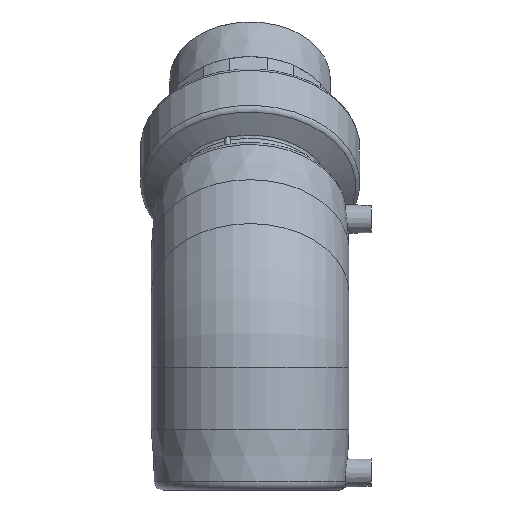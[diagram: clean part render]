
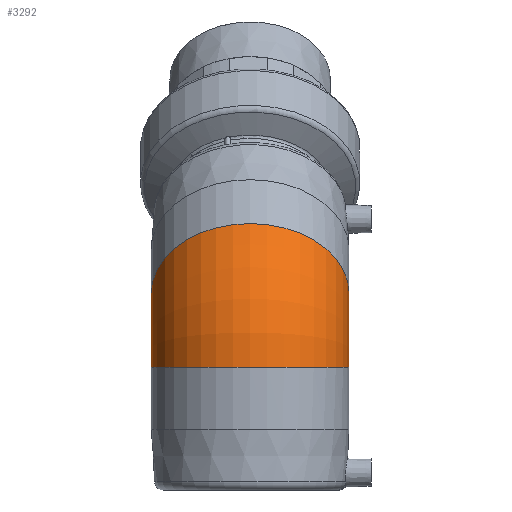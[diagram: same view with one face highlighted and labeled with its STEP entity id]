
A CAD part, left-side view. The second image highlights one B-rep face of the part: STEP entity #3292.
In plain terms, the highlighted toroidal (fillet/blend) face has major radius 72.426 mm and minor radius 68.5 mm.
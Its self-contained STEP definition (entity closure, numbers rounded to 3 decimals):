
#434=TOROIDAL_SURFACE('',#4238,72.426,68.5);
#645=ORIENTED_EDGE('',*,*,#1567,.F.);
#646=ORIENTED_EDGE('',*,*,#1566,.T.);
#1566=EDGE_CURVE('',#2036,#2036,#2351,.F.);
#1567=EDGE_CURVE('',#2037,#2037,#2352,.F.);
#2036=VERTEX_POINT('',#5860);
#2037=VERTEX_POINT('',#5863);
#2351=CIRCLE('',#4237,68.5);
#2352=CIRCLE('',#4239,68.5);
#2595=EDGE_LOOP('',(#645));
#2596=EDGE_LOOP('',(#646));
#2898=FACE_BOUND('',#2595,.T.);
#2899=FACE_BOUND('',#2596,.T.);
#3292=ADVANCED_FACE('',(#2898,#2899),#434,.T.);
#4237=AXIS2_PLACEMENT_3D('',#5859,#4718,#4719);
#4238=AXIS2_PLACEMENT_3D('',#5861,#4720,#4721);
#4239=AXIS2_PLACEMENT_3D('',#5862,#4722,#4723);
#4718=DIRECTION('',(0.,0.,-1.));
#4719=DIRECTION('',(1.,0.,0.));
#4720=DIRECTION('',(0.,1.,0.));
#4721=DIRECTION('',(0.,0.,1.));
#4722=DIRECTION('',(-0.707,0.,-0.707));
#4723=DIRECTION('',(0.707,0.,-0.707));
#5859=CARTESIAN_POINT('',(0.,0.,-30.));
#5860=CARTESIAN_POINT('',(68.5,0.,-30.));
#5861=CARTESIAN_POINT('',(72.426,0.,-30.));
#5862=CARTESIAN_POINT('',(21.213,0.,21.213));
#5863=CARTESIAN_POINT('',(69.65,0.,-27.224));
